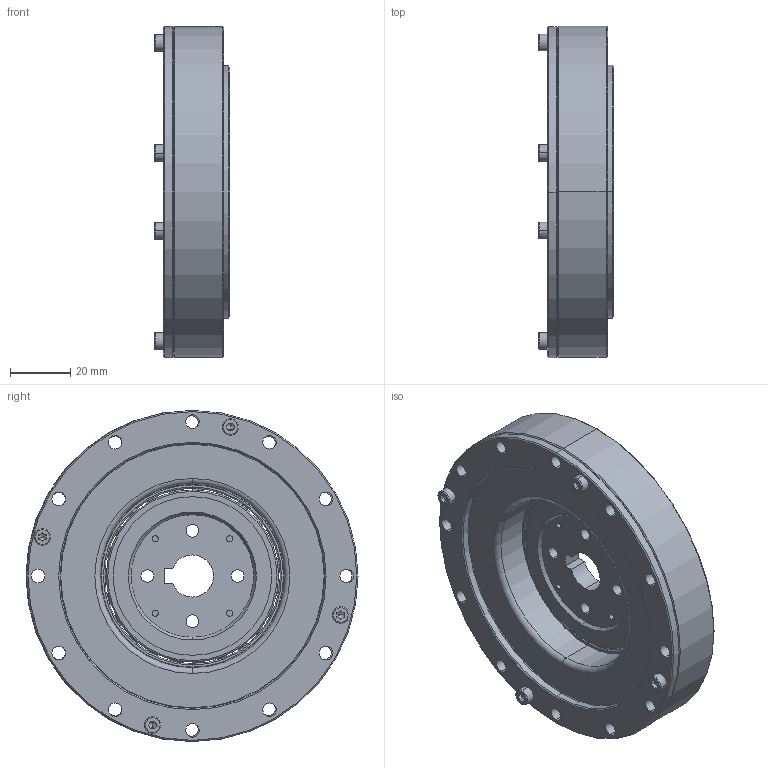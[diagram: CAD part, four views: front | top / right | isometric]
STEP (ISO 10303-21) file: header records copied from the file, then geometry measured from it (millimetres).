
FILE_DESCRIPTION (( 'STEP AP203' ), '1' );
FILE_NAME ('LHD-25-XXX-C-I.STEP', '2016-08-01T06:15:49', ( 'lenovo' ), ( 'Microsoft' ), 'SwSTEP 2.0', 'SolidWorks 2013', '' );
FILE_SCHEMA (( 'CONFIG_CONTROL_DESIGN' ));
Length unit declared in the file: millimetre
Products named in the file (13): LHD-25-XXX-P04; LHD-25-XXX-P02; YF-25-I; LHD-25-XXX-P03; ISO 7046-1 - M2.5 x 4 - Z --- 4C_ISO 7046-1 - M2.5 x 4 - Z --- 4C; DB-25-I; DIN 912 M3 x 6 --- 6C_DIN 912 M3 x 6 --- 6C; RZC-25内外圈+钢球; DIN 912 M3 x 8 --- 8C_DIN 912 M3 x 8 --- 8C; 悵厥殤; LHD-25-XXX-C-I; RZC-25; LHD-25-XXX-P01
Assembly tree (23 placements, depth 3):
  LHD-25-XXX-C-I
    LHD-25-XXX-P03
    DB-25-I
    RZC-25
      RZC-25内外圈+钢球
      悵厥殤
    LHD-25-XXX-P01
    LHD-25-XXX-P04
    LHD-25-XXX-P02
    YF-25-I
    ISO 7046-1 - M2.5 x 4 - Z --- 4C_ISO 7046-1 - M2.5 x 4 - Z --- 4C  x4
    DIN 912 M3 x 6 --- 6C_DIN 912 M3 x 6 --- 6C  x6
    DIN 912 M3 x 8 --- 8C_DIN 912 M3 x 8 --- 8C  x4
Bounding box: 25 x 110.26 x 110 mm (x, y, z)
Volume: 124111.3 mm3; surface area: 96804.3 mm2
Topology: 24 solids, 24 shells, 1036 faces, 2666 edges, 1636 vertices
Faces by surface type: cylinder 387, plane 337, cone 180, torus 86, sphere 46
Entity records: 23791 total; most frequent: CARTESIAN_POINT 4487, DIRECTION 4073, ORIENTED_EDGE 3464, AXIS2_PLACEMENT_3D 1768, EDGE_CURVE 1732, VERTEX_POINT 1118, CIRCLE 1044, EDGE_LOOP 898
